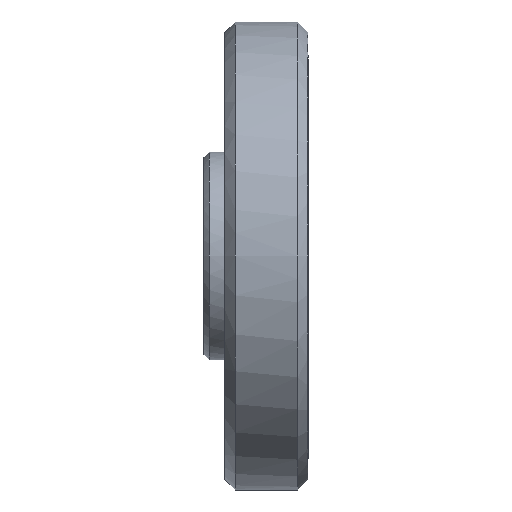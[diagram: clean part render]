
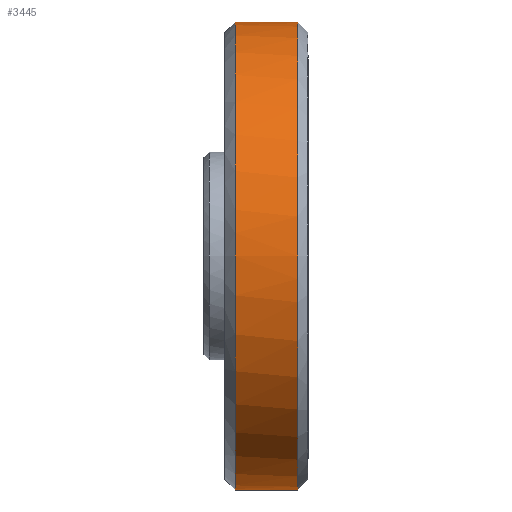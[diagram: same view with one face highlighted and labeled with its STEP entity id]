
A CAD part, front view. The second image highlights one B-rep face of the part: STEP entity #3445.
In plain terms, the highlighted free-form (B-spline) face has degree [1, 2] with [2, 5] control points.
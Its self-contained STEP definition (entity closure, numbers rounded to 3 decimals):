
#128=CARTESIAN_POINT('',(9.,0.,-22.5));
#129=VERTEX_POINT('',#128);
#169=CARTESIAN_POINT('',(9.,0.,22.5));
#170=VERTEX_POINT('',#169);
#176=CARTESIAN_POINT('',(9.,-22.5,0.));
#177=VERTEX_POINT('',#176);
#178=CARTESIAN_POINT('',(9.,-22.5,0.));
#179=CARTESIAN_POINT('',(9.,-22.5,9.32));
#180=CARTESIAN_POINT('',(9.,-15.91,15.91));
#181=CARTESIAN_POINT('',(9.,-9.32,22.5));
#182=CARTESIAN_POINT('',(9.,0.,22.5));
#190=(BOUNDED_CURVE()B_SPLINE_CURVE(2,(#178,#179,#180,#181,#182),.UNSPECIFIED.,.F.,.U.)B_SPLINE_CURVE_WITH_KNOTS((3,2,3),(0.,0.5,1.),.UNSPECIFIED.)CURVE()GEOMETRIC_REPRESENTATION_ITEM()RATIONAL_B_SPLINE_CURVE((1.,0.924,1.,0.924,1.))REPRESENTATION_ITEM(''));
#191=EDGE_CURVE('',#177,#170,#190,.T.);
#193=CARTESIAN_POINT('',(9.,0.,-22.5));
#194=CARTESIAN_POINT('',(9.,-9.32,-22.5));
#195=CARTESIAN_POINT('',(9.,-15.91,-15.91));
#196=CARTESIAN_POINT('',(9.,-22.5,-9.32));
#197=CARTESIAN_POINT('',(9.,-22.5,0.));
#205=(BOUNDED_CURVE()B_SPLINE_CURVE(2,(#193,#194,#195,#196,#197),.UNSPECIFIED.,.F.,.U.)B_SPLINE_CURVE_WITH_KNOTS((3,2,3),(0.,0.5,1.),.UNSPECIFIED.)CURVE()GEOMETRIC_REPRESENTATION_ITEM()RATIONAL_B_SPLINE_CURVE((1.,0.924,1.,0.924,1.))REPRESENTATION_ITEM(''));
#206=EDGE_CURVE('',#129,#177,#205,.T.);
#231=CARTESIAN_POINT('',(3.,0.,22.5));
#232=VERTEX_POINT('',#231);
#272=CARTESIAN_POINT('',(3.,0.,-22.5));
#273=VERTEX_POINT('',#272);
#279=CARTESIAN_POINT('',(3.,-22.5,0.));
#280=VERTEX_POINT('',#279);
#281=CARTESIAN_POINT('',(3.,-22.5,0.));
#282=CARTESIAN_POINT('',(3.,-22.5,-9.32));
#283=CARTESIAN_POINT('',(3.,-15.91,-15.91));
#284=CARTESIAN_POINT('',(3.,-9.32,-22.5));
#285=CARTESIAN_POINT('',(3.,0.,-22.5));
#293=(BOUNDED_CURVE()B_SPLINE_CURVE(2,(#281,#282,#283,#284,#285),.UNSPECIFIED.,.F.,.U.)B_SPLINE_CURVE_WITH_KNOTS((3,2,3),(0.,0.5,1.),.UNSPECIFIED.)CURVE()GEOMETRIC_REPRESENTATION_ITEM()RATIONAL_B_SPLINE_CURVE((1.,0.924,1.,0.924,1.))REPRESENTATION_ITEM(''));
#294=EDGE_CURVE('',#280,#273,#293,.T.);
#296=CARTESIAN_POINT('',(3.,0.,22.5));
#297=CARTESIAN_POINT('',(3.,-9.32,22.5));
#298=CARTESIAN_POINT('',(3.,-15.91,15.91));
#299=CARTESIAN_POINT('',(3.,-22.5,9.32));
#300=CARTESIAN_POINT('',(3.,-22.5,0.));
#308=(BOUNDED_CURVE()B_SPLINE_CURVE(2,(#296,#297,#298,#299,#300),.UNSPECIFIED.,.F.,.U.)B_SPLINE_CURVE_WITH_KNOTS((3,2,3),(0.,0.5,1.),.UNSPECIFIED.)CURVE()GEOMETRIC_REPRESENTATION_ITEM()RATIONAL_B_SPLINE_CURVE((1.,0.924,1.,0.924,1.))REPRESENTATION_ITEM(''));
#309=EDGE_CURVE('',#232,#280,#308,.T.);
#3411=CARTESIAN_POINT('',(2.85,0.589,-22.492));
#3412=CARTESIAN_POINT('',(9.154,0.589,-22.492));
#3413=CARTESIAN_POINT('',(2.85,-23.113,-23.113));
#3414=CARTESIAN_POINT('',(9.154,-23.113,-23.113));
#3415=CARTESIAN_POINT('',(2.85,-22.492,0.589));
#3416=CARTESIAN_POINT('',(9.154,-22.492,0.589));
#3417=CARTESIAN_POINT('',(2.85,-21.872,24.291));
#3418=CARTESIAN_POINT('',(9.154,-21.872,24.291));
#3419=CARTESIAN_POINT('',(2.85,1.765,22.431));
#3420=CARTESIAN_POINT('',(9.154,1.765,22.431));
#3428=(BOUNDED_SURFACE()B_SPLINE_SURFACE(1,2,((#3411,#3413,#3415,#3417,#3419),(#3412,#3414,#3416,#3418,#3420)),.UNSPECIFIED.,.F.,.F.,.U.)B_SPLINE_SURFACE_WITH_KNOTS((2,2),(3,2,3),(0.,6.304),(0.,47.42,94.84),.UNSPECIFIED.)GEOMETRIC_REPRESENTATION_ITEM()RATIONAL_B_SPLINE_SURFACE(((1.,0.688,1.,0.688,1.),(1.,0.688,1.,0.688,1.)))REPRESENTATION_ITEM('')SURFACE());
#3429=CARTESIAN_POINT('',(3.,0.,22.5));
#3430=CARTESIAN_POINT('',(9.,0.,22.5));
#3431=QUASI_UNIFORM_CURVE('',1,(#3429,#3430),.UNSPECIFIED.,.F.,.U.);
#3432=EDGE_CURVE('',#232,#170,#3431,.T.);
#3433=ORIENTED_EDGE('',*,*,#3432,.F.);
#3434=ORIENTED_EDGE('',*,*,#309,.T.);
#3435=ORIENTED_EDGE('',*,*,#294,.T.);
#3436=CARTESIAN_POINT('',(3.,0.,-22.5));
#3437=CARTESIAN_POINT('',(9.,0.,-22.5));
#3438=QUASI_UNIFORM_CURVE('',1,(#3436,#3437),.UNSPECIFIED.,.F.,.U.);
#3439=EDGE_CURVE('',#273,#129,#3438,.T.);
#3440=ORIENTED_EDGE('',*,*,#3439,.T.);
#3441=ORIENTED_EDGE('',*,*,#206,.T.);
#3442=ORIENTED_EDGE('',*,*,#191,.T.);
#3443=EDGE_LOOP('',(#3433,#3434,#3435,#3440,#3441,#3442));
#3444=FACE_OUTER_BOUND('',#3443,.T.);
#3445=ADVANCED_FACE('',(#3444),#3428,.T.);
